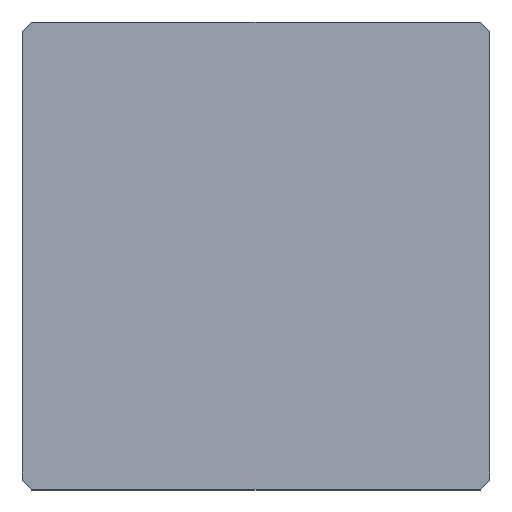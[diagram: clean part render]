
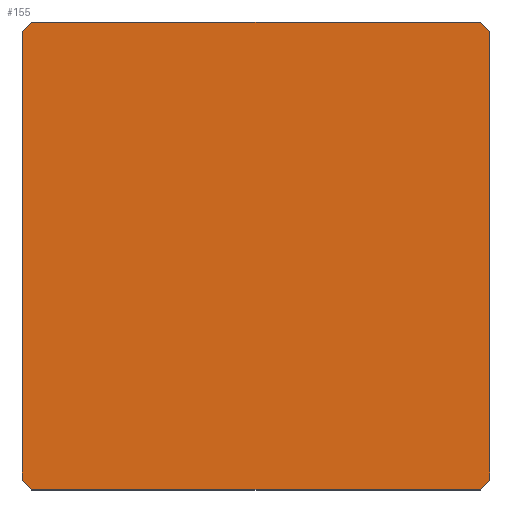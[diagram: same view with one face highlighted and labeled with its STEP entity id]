
A CAD part, top view. The second image highlights one B-rep face of the part: STEP entity #155.
In plain terms, the highlighted planar face has unit normal (0, 0, 1).
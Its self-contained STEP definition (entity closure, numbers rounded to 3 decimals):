
#39 = EDGE_CURVE('',#40,#42,#44,.T.);
#40 = VERTEX_POINT('',#41);
#41 = CARTESIAN_POINT('',(-10.,-9.6,15.75));
#42 = VERTEX_POINT('',#43);
#43 = CARTESIAN_POINT('',(-10.,9.6,15.75));
#44 = SURFACE_CURVE('',#45,(#49,#61),.PCURVE_S1.);
#45 = LINE('',#46,#47);
#46 = CARTESIAN_POINT('',(-10.,-10.,15.75));
#47 = VECTOR('',#48,1.);
#48 = DIRECTION('',(-0.,1.,0.));
#49 = PCURVE('',#50,#55);
#50 = PLANE('',#51);
#51 = AXIS2_PLACEMENT_3D('',#52,#53,#54);
#52 = CARTESIAN_POINT('',(-10.,-10.,0.));
#53 = DIRECTION('',(1.,0.,-0.));
#54 = DIRECTION('',(0.,0.,1.));
#55 = DEFINITIONAL_REPRESENTATION('',(#56),#60);
#56 = LINE('',#57,#58);
#57 = CARTESIAN_POINT('',(15.75,0.));
#58 = VECTOR('',#59,1.);
#59 = DIRECTION('',(0.,-1.));
#60 = ( GEOMETRIC_REPRESENTATION_CONTEXT(2) 
PARAMETRIC_REPRESENTATION_CONTEXT() REPRESENTATION_CONTEXT('2D SPACE',''
  ) );
#61 = PCURVE('',#62,#67);
#62 = PLANE('',#63);
#63 = AXIS2_PLACEMENT_3D('',#64,#65,#66);
#64 = CARTESIAN_POINT('',(-10.,-10.,15.75));
#65 = DIRECTION('',(0.,0.,1.));
#66 = DIRECTION('',(1.,0.,-0.));
#67 = DEFINITIONAL_REPRESENTATION('',(#68),#72);
#68 = LINE('',#69,#70);
#69 = CARTESIAN_POINT('',(0.,0.));
#70 = VECTOR('',#71,1.);
#71 = DIRECTION('',(0.,1.));
#72 = ( GEOMETRIC_REPRESENTATION_CONTEXT(2) 
PARAMETRIC_REPRESENTATION_CONTEXT() REPRESENTATION_CONTEXT('2D SPACE',''
  ) );
#90 = PLANE('',#91);
#91 = AXIS2_PLACEMENT_3D('',#92,#93,#94);
#92 = CARTESIAN_POINT('',(-9.8,-9.8,0.));
#93 = DIRECTION('',(-0.707,-0.707,0.));
#94 = DIRECTION('',(-0.,-0.,-1.));
#144 = PLANE('',#145);
#145 = AXIS2_PLACEMENT_3D('',#146,#147,#148);
#146 = CARTESIAN_POINT('',(-9.8,9.8,0.));
#147 = DIRECTION('',(0.707,-0.707,0.));
#148 = DIRECTION('',(-0.,-0.,-1.));
#155 = ADVANCED_FACE('',(#156),#62,.T.);
#156 = FACE_BOUND('',#157,.T.);
#157 = EDGE_LOOP('',(#158,#159,#182,#210,#238,#266,#294,#322));
#158 = ORIENTED_EDGE('',*,*,#39,.F.);
#159 = ORIENTED_EDGE('',*,*,#160,.T.);
#160 = EDGE_CURVE('',#40,#161,#163,.T.);
#161 = VERTEX_POINT('',#162);
#162 = CARTESIAN_POINT('',(-9.6,-10.,15.75));
#163 = SURFACE_CURVE('',#164,(#168,#175),.PCURVE_S1.);
#164 = LINE('',#165,#166);
#165 = CARTESIAN_POINT('',(-9.8,-9.8,15.75));
#166 = VECTOR('',#167,1.);
#167 = DIRECTION('',(0.707,-0.707,0.));
#168 = PCURVE('',#62,#169);
#169 = DEFINITIONAL_REPRESENTATION('',(#170),#174);
#170 = LINE('',#171,#172);
#171 = CARTESIAN_POINT('',(0.2,0.2));
#172 = VECTOR('',#173,1.);
#173 = DIRECTION('',(0.707,-0.707));
#174 = ( GEOMETRIC_REPRESENTATION_CONTEXT(2) 
PARAMETRIC_REPRESENTATION_CONTEXT() REPRESENTATION_CONTEXT('2D SPACE',''
  ) );
#175 = PCURVE('',#90,#176);
#176 = DEFINITIONAL_REPRESENTATION('',(#177),#181);
#177 = LINE('',#178,#179);
#178 = CARTESIAN_POINT('',(-15.75,0.));
#179 = VECTOR('',#180,1.);
#180 = DIRECTION('',(-0.,1.));
#181 = ( GEOMETRIC_REPRESENTATION_CONTEXT(2) 
PARAMETRIC_REPRESENTATION_CONTEXT() REPRESENTATION_CONTEXT('2D SPACE',''
  ) );
#182 = ORIENTED_EDGE('',*,*,#183,.T.);
#183 = EDGE_CURVE('',#161,#184,#186,.T.);
#184 = VERTEX_POINT('',#185);
#185 = CARTESIAN_POINT('',(9.6,-10.,15.75));
#186 = SURFACE_CURVE('',#187,(#191,#198),.PCURVE_S1.);
#187 = LINE('',#188,#189);
#188 = CARTESIAN_POINT('',(-10.,-10.,15.75));
#189 = VECTOR('',#190,1.);
#190 = DIRECTION('',(1.,0.,-0.));
#191 = PCURVE('',#62,#192);
#192 = DEFINITIONAL_REPRESENTATION('',(#193),#197);
#193 = LINE('',#194,#195);
#194 = CARTESIAN_POINT('',(0.,0.));
#195 = VECTOR('',#196,1.);
#196 = DIRECTION('',(1.,0.));
#197 = ( GEOMETRIC_REPRESENTATION_CONTEXT(2) 
PARAMETRIC_REPRESENTATION_CONTEXT() REPRESENTATION_CONTEXT('2D SPACE',''
  ) );
#198 = PCURVE('',#199,#204);
#199 = PLANE('',#200);
#200 = AXIS2_PLACEMENT_3D('',#201,#202,#203);
#201 = CARTESIAN_POINT('',(-10.,-10.,0.));
#202 = DIRECTION('',(-0.,1.,0.));
#203 = DIRECTION('',(0.,0.,1.));
#204 = DEFINITIONAL_REPRESENTATION('',(#205),#209);
#205 = LINE('',#206,#207);
#206 = CARTESIAN_POINT('',(15.75,0.));
#207 = VECTOR('',#208,1.);
#208 = DIRECTION('',(0.,1.));
#209 = ( GEOMETRIC_REPRESENTATION_CONTEXT(2) 
PARAMETRIC_REPRESENTATION_CONTEXT() REPRESENTATION_CONTEXT('2D SPACE',''
  ) );
#210 = ORIENTED_EDGE('',*,*,#211,.F.);
#211 = EDGE_CURVE('',#212,#184,#214,.T.);
#212 = VERTEX_POINT('',#213);
#213 = CARTESIAN_POINT('',(10.,-9.6,15.75));
#214 = SURFACE_CURVE('',#215,(#219,#226),.PCURVE_S1.);
#215 = LINE('',#216,#217);
#216 = CARTESIAN_POINT('',(4.8,-14.8,15.75));
#217 = VECTOR('',#218,1.);
#218 = DIRECTION('',(-0.707,-0.707,0.));
#219 = PCURVE('',#62,#220);
#220 = DEFINITIONAL_REPRESENTATION('',(#221),#225);
#221 = LINE('',#222,#223);
#222 = CARTESIAN_POINT('',(14.8,-4.8));
#223 = VECTOR('',#224,1.);
#224 = DIRECTION('',(-0.707,-0.707));
#225 = ( GEOMETRIC_REPRESENTATION_CONTEXT(2) 
PARAMETRIC_REPRESENTATION_CONTEXT() REPRESENTATION_CONTEXT('2D SPACE',''
  ) );
#226 = PCURVE('',#227,#232);
#227 = PLANE('',#228);
#228 = AXIS2_PLACEMENT_3D('',#229,#230,#231);
#229 = CARTESIAN_POINT('',(9.8,-9.8,0.));
#230 = DIRECTION('',(-0.707,0.707,0.));
#231 = DIRECTION('',(-0.,-0.,-1.));
#232 = DEFINITIONAL_REPRESENTATION('',(#233),#237);
#233 = LINE('',#234,#235);
#234 = CARTESIAN_POINT('',(-15.75,7.071));
#235 = VECTOR('',#236,1.);
#236 = DIRECTION('',(-0.,1.));
#237 = ( GEOMETRIC_REPRESENTATION_CONTEXT(2) 
PARAMETRIC_REPRESENTATION_CONTEXT() REPRESENTATION_CONTEXT('2D SPACE',''
  ) );
#238 = ORIENTED_EDGE('',*,*,#239,.T.);
#239 = EDGE_CURVE('',#212,#240,#242,.T.);
#240 = VERTEX_POINT('',#241);
#241 = CARTESIAN_POINT('',(10.,9.6,15.75));
#242 = SURFACE_CURVE('',#243,(#247,#254),.PCURVE_S1.);
#243 = LINE('',#244,#245);
#244 = CARTESIAN_POINT('',(10.,-10.,15.75));
#245 = VECTOR('',#246,1.);
#246 = DIRECTION('',(-0.,1.,0.));
#247 = PCURVE('',#62,#248);
#248 = DEFINITIONAL_REPRESENTATION('',(#249),#253);
#249 = LINE('',#250,#251);
#250 = CARTESIAN_POINT('',(20.,0.));
#251 = VECTOR('',#252,1.);
#252 = DIRECTION('',(0.,1.));
#253 = ( GEOMETRIC_REPRESENTATION_CONTEXT(2) 
PARAMETRIC_REPRESENTATION_CONTEXT() REPRESENTATION_CONTEXT('2D SPACE',''
  ) );
#254 = PCURVE('',#255,#260);
#255 = PLANE('',#256);
#256 = AXIS2_PLACEMENT_3D('',#257,#258,#259);
#257 = CARTESIAN_POINT('',(10.,-10.,0.));
#258 = DIRECTION('',(1.,0.,-0.));
#259 = DIRECTION('',(0.,0.,1.));
#260 = DEFINITIONAL_REPRESENTATION('',(#261),#265);
#261 = LINE('',#262,#263);
#262 = CARTESIAN_POINT('',(15.75,0.));
#263 = VECTOR('',#264,1.);
#264 = DIRECTION('',(0.,-1.));
#265 = ( GEOMETRIC_REPRESENTATION_CONTEXT(2) 
PARAMETRIC_REPRESENTATION_CONTEXT() REPRESENTATION_CONTEXT('2D SPACE',''
  ) );
#266 = ORIENTED_EDGE('',*,*,#267,.T.);
#267 = EDGE_CURVE('',#240,#268,#270,.T.);
#268 = VERTEX_POINT('',#269);
#269 = CARTESIAN_POINT('',(9.6,10.,15.75));
#270 = SURFACE_CURVE('',#271,(#275,#282),.PCURVE_S1.);
#271 = LINE('',#272,#273);
#272 = CARTESIAN_POINT('',(9.8,9.8,15.75));
#273 = VECTOR('',#274,1.);
#274 = DIRECTION('',(-0.707,0.707,0.));
#275 = PCURVE('',#62,#276);
#276 = DEFINITIONAL_REPRESENTATION('',(#277),#281);
#277 = LINE('',#278,#279);
#278 = CARTESIAN_POINT('',(19.8,19.8));
#279 = VECTOR('',#280,1.);
#280 = DIRECTION('',(-0.707,0.707));
#281 = ( GEOMETRIC_REPRESENTATION_CONTEXT(2) 
PARAMETRIC_REPRESENTATION_CONTEXT() REPRESENTATION_CONTEXT('2D SPACE',''
  ) );
#282 = PCURVE('',#283,#288);
#283 = PLANE('',#284);
#284 = AXIS2_PLACEMENT_3D('',#285,#286,#287);
#285 = CARTESIAN_POINT('',(9.8,9.8,0.));
#286 = DIRECTION('',(0.707,0.707,0.));
#287 = DIRECTION('',(-0.,0.,-1.));
#288 = DEFINITIONAL_REPRESENTATION('',(#289),#293);
#289 = LINE('',#290,#291);
#290 = CARTESIAN_POINT('',(-15.75,0.));
#291 = VECTOR('',#292,1.);
#292 = DIRECTION('',(-0.,1.));
#293 = ( GEOMETRIC_REPRESENTATION_CONTEXT(2) 
PARAMETRIC_REPRESENTATION_CONTEXT() REPRESENTATION_CONTEXT('2D SPACE',''
  ) );
#294 = ORIENTED_EDGE('',*,*,#295,.F.);
#295 = EDGE_CURVE('',#296,#268,#298,.T.);
#296 = VERTEX_POINT('',#297);
#297 = CARTESIAN_POINT('',(-9.6,10.,15.75));
#298 = SURFACE_CURVE('',#299,(#303,#310),.PCURVE_S1.);
#299 = LINE('',#300,#301);
#300 = CARTESIAN_POINT('',(-10.,10.,15.75));
#301 = VECTOR('',#302,1.);
#302 = DIRECTION('',(1.,0.,-0.));
#303 = PCURVE('',#62,#304);
#304 = DEFINITIONAL_REPRESENTATION('',(#305),#309);
#305 = LINE('',#306,#307);
#306 = CARTESIAN_POINT('',(0.,20.));
#307 = VECTOR('',#308,1.);
#308 = DIRECTION('',(1.,0.));
#309 = ( GEOMETRIC_REPRESENTATION_CONTEXT(2) 
PARAMETRIC_REPRESENTATION_CONTEXT() REPRESENTATION_CONTEXT('2D SPACE',''
  ) );
#310 = PCURVE('',#311,#316);
#311 = PLANE('',#312);
#312 = AXIS2_PLACEMENT_3D('',#313,#314,#315);
#313 = CARTESIAN_POINT('',(-10.,10.,0.));
#314 = DIRECTION('',(-0.,1.,0.));
#315 = DIRECTION('',(0.,0.,1.));
#316 = DEFINITIONAL_REPRESENTATION('',(#317),#321);
#317 = LINE('',#318,#319);
#318 = CARTESIAN_POINT('',(15.75,0.));
#319 = VECTOR('',#320,1.);
#320 = DIRECTION('',(0.,1.));
#321 = ( GEOMETRIC_REPRESENTATION_CONTEXT(2) 
PARAMETRIC_REPRESENTATION_CONTEXT() REPRESENTATION_CONTEXT('2D SPACE',''
  ) );
#322 = ORIENTED_EDGE('',*,*,#323,.F.);
#323 = EDGE_CURVE('',#42,#296,#324,.T.);
#324 = SURFACE_CURVE('',#325,(#329,#336),.PCURVE_S1.);
#325 = LINE('',#326,#327);
#326 = CARTESIAN_POINT('',(-14.8,4.8,15.75));
#327 = VECTOR('',#328,1.);
#328 = DIRECTION('',(0.707,0.707,-0.));
#329 = PCURVE('',#62,#330);
#330 = DEFINITIONAL_REPRESENTATION('',(#331),#335);
#331 = LINE('',#332,#333);
#332 = CARTESIAN_POINT('',(-4.8,14.8));
#333 = VECTOR('',#334,1.);
#334 = DIRECTION('',(0.707,0.707));
#335 = ( GEOMETRIC_REPRESENTATION_CONTEXT(2) 
PARAMETRIC_REPRESENTATION_CONTEXT() REPRESENTATION_CONTEXT('2D SPACE',''
  ) );
#336 = PCURVE('',#144,#337);
#337 = DEFINITIONAL_REPRESENTATION('',(#338),#342);
#338 = LINE('',#339,#340);
#339 = CARTESIAN_POINT('',(-15.75,-7.071));
#340 = VECTOR('',#341,1.);
#341 = DIRECTION('',(-0.,1.));
#342 = ( GEOMETRIC_REPRESENTATION_CONTEXT(2) 
PARAMETRIC_REPRESENTATION_CONTEXT() REPRESENTATION_CONTEXT('2D SPACE',''
  ) );
